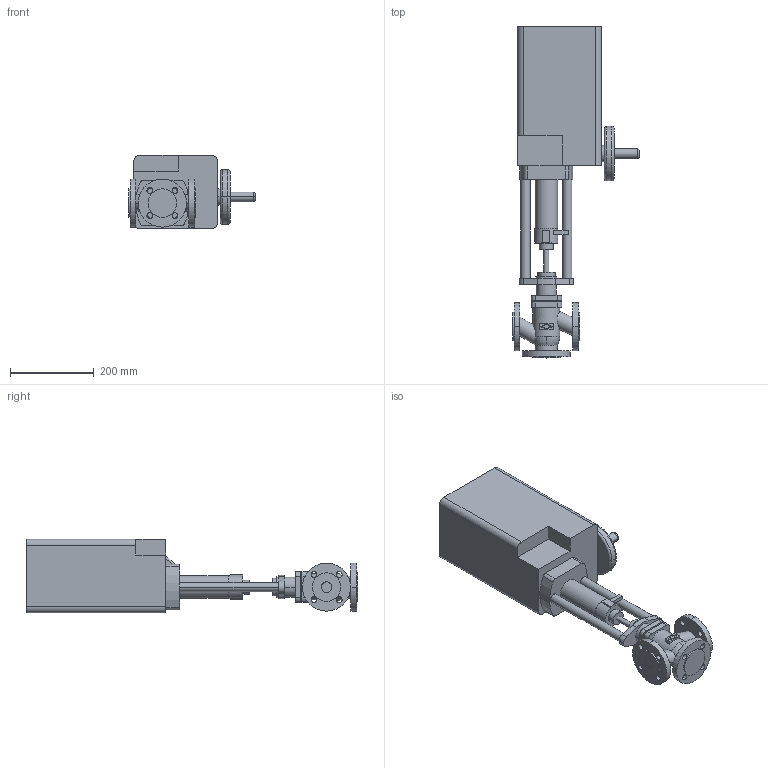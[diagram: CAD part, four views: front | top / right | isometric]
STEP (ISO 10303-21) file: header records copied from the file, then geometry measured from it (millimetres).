
FILE_DESCRIPTION(('OneSpaceDesigner STEP Export'),'2;1');
FILE_NAME('c000002397.stp','2006-09-19T11:59:02',(''),(''),'OneSpace Designer STEP processor for AP214 (Solid Model)','OneSpace Designer 13.20A 18-Aug-2005 (C) CoCreate Software GmbH','');
FILE_SCHEMA(('AUTOMOTIVE_DESIGN { 1 0 10303 214 1 1 1 1 }'));
Length unit declared in the file: millimetre
Products named in the file (2): 1; 2
Bounding box: 301.6 x 792.5 x 175 mm (x, y, z)
Volume: 13791360.9 mm3; surface area: 573007.8 mm2
Topology: 2 solids, 2 shells, 194 faces, 476 edges, 317 vertices
Faces by surface type: cylinder 96, plane 90, torus 8
Entity records: 5417 total; most frequent: CARTESIAN_POINT 1027, ORIENTED_EDGE 952, DIRECTION 827, EDGE_CURVE 476, VERTEX_POINT 317, AXIS2_PLACEMENT_3D 292, EDGE_LOOP 249, VECTOR 243
